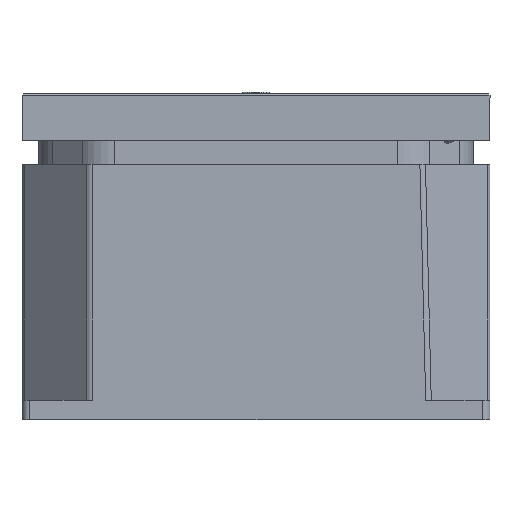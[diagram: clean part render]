
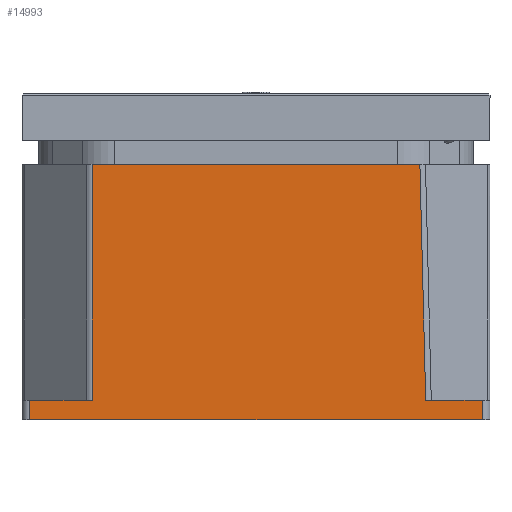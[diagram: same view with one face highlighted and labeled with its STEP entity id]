
A CAD part, left-side view. The second image highlights one B-rep face of the part: STEP entity #14993.
In plain terms, the highlighted planar face has unit normal (-1, 0, 0).
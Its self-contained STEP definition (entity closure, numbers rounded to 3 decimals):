
#584=PLANE('',#16327);
#1407=FACE_OUTER_BOUND('',#2308,.T.);
#2308=EDGE_LOOP('',(#10619,#10620,#10621,#10622,#10623,#10624,#10625,#10626));
#3304=LINE('',#22809,#4571);
#3335=LINE('',#22930,#4602);
#3336=LINE('',#22932,#4603);
#3337=LINE('',#22934,#4604);
#3338=LINE('',#22936,#4605);
#3339=LINE('',#22938,#4606);
#3340=LINE('',#22940,#4607);
#3341=LINE('',#22941,#4608);
#4571=VECTOR('',#18128,10.);
#4602=VECTOR('',#18249,60.);
#4603=VECTOR('',#18250,17.828);
#4604=VECTOR('',#18251,1.);
#4605=VECTOR('',#18252,119.);
#4606=VECTOR('',#18253,1.);
#4607=VECTOR('',#18254,1.);
#4608=VECTOR('',#18255,1.);
#6706=VERTEX_POINT('',#22806);
#6707=VERTEX_POINT('',#22808);
#6752=VERTEX_POINT('',#22929);
#6753=VERTEX_POINT('',#22931);
#6754=VERTEX_POINT('',#22933);
#6755=VERTEX_POINT('',#22935);
#6756=VERTEX_POINT('',#22937);
#6757=VERTEX_POINT('',#22939);
#8183=EDGE_CURVE('',#6707,#6706,#3304,.T.);
#8243=EDGE_CURVE('',#6752,#6706,#3335,.T.);
#8244=EDGE_CURVE('',#6753,#6752,#3336,.T.);
#8245=EDGE_CURVE('',#6753,#6754,#3337,.T.);
#8246=EDGE_CURVE('',#6755,#6754,#3338,.T.);
#8247=EDGE_CURVE('',#6756,#6755,#3339,.T.);
#8248=EDGE_CURVE('',#6757,#6756,#3340,.T.);
#8249=EDGE_CURVE('',#6757,#6707,#3341,.T.);
#10619=ORIENTED_EDGE('',*,*,#8183,.T.);
#10620=ORIENTED_EDGE('',*,*,#8243,.F.);
#10621=ORIENTED_EDGE('',*,*,#8244,.F.);
#10622=ORIENTED_EDGE('',*,*,#8245,.T.);
#10623=ORIENTED_EDGE('',*,*,#8246,.F.);
#10624=ORIENTED_EDGE('',*,*,#8247,.F.);
#10625=ORIENTED_EDGE('',*,*,#8248,.F.);
#10626=ORIENTED_EDGE('',*,*,#8249,.T.);
#14993=ADVANCED_FACE('',(#1407),#584,.T.);
#16327=AXIS2_PLACEMENT_3D('',#22928,#18247,#18248);
#18128=DIRECTION('',(0.,1.,0.));
#18247=DIRECTION('center_axis',(-1.,0.,0.));
#18248=DIRECTION('ref_axis',(0.,-1.,0.));
#18249=DIRECTION('',(0.,0.,1.));
#18250=DIRECTION('',(0.,-1.,0.));
#18251=DIRECTION('',(0.,0.,-1.));
#18252=DIRECTION('',(0.,1.,0.));
#18253=DIRECTION('',(0.,0.,-1.));
#18254=DIRECTION('',(0.,-1.,0.));
#18255=DIRECTION('',(0.,0.025,1.));
#22806=CARTESIAN_POINT('',(-59.5,41.672,0.));
#22808=CARTESIAN_POINT('',(-59.5,-41.671,0.));
#22809=CARTESIAN_POINT('',(-59.5,20.836,0.));
#22928=CARTESIAN_POINT('Origin',(-59.5,41.672,-60.));
#22929=CARTESIAN_POINT('',(-59.5,41.672,-60.));
#22930=CARTESIAN_POINT('',(-59.5,41.672,-60.));
#22931=CARTESIAN_POINT('',(-59.5,57.5,-60.));
#22932=CARTESIAN_POINT('',(-59.5,0.,-60.));
#22933=CARTESIAN_POINT('',(-59.5,57.5,-65.));
#22934=CARTESIAN_POINT('',(-59.5,57.5,-65.));
#22935=CARTESIAN_POINT('',(-59.5,-57.5,-65.));
#22936=CARTESIAN_POINT('',(-59.5,0.,-65.));
#22937=CARTESIAN_POINT('',(-59.5,-57.5,-60.));
#22938=CARTESIAN_POINT('',(-59.5,-57.5,-65.));
#22939=CARTESIAN_POINT('',(-59.5,-43.152,-60.));
#22940=CARTESIAN_POINT('',(-59.5,-59.5,-60.));
#22941=CARTESIAN_POINT('',(-59.5,-43.276,-65.));
